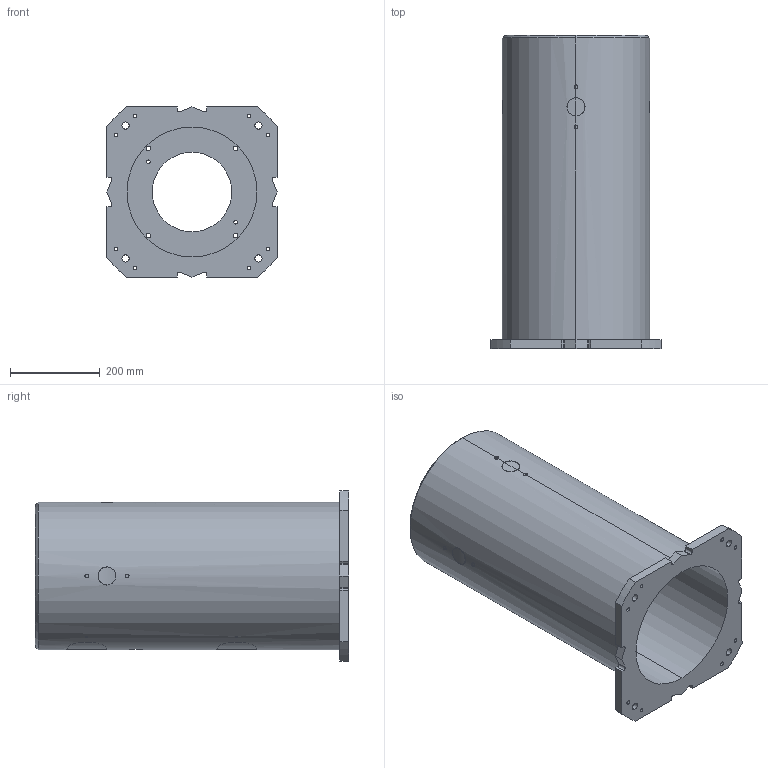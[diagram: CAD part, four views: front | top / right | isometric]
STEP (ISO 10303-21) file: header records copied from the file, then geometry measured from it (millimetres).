
FILE_DESCRIPTION (( 'STEP AP214' ), '1' );
FILE_NAME ('E-700.STEP', '2025-12-05T12:47:18', ( '' ), ( '' ), 'SwSTEP 2.0', 'SolidWorks 2022', '' );
FILE_SCHEMA (( 'AUTOMOTIVE_DESIGN' ));
Length unit declared in the file: millimetre
Products named in the file (1): E-700
Bounding box: 380 x 700 x 380 mm (x, y, z)
Volume: 15368823.2 mm3; surface area: 1601273.2 mm2
Topology: 1 solids, 1 shells, 167 faces, 457 edges, 304 vertices
Faces by surface type: cylinder 113, plane 28, bspline 24, cone 2
Entity records: 12428 total; most frequent: CARTESIAN_POINT 7721, ORIENTED_EDGE 914, DIRECTION 717, EDGE_CURVE 457, VERTEX_POINT 304, AXIS2_PLACEMENT_3D 270, EDGE_LOOP 217, LINE 177
